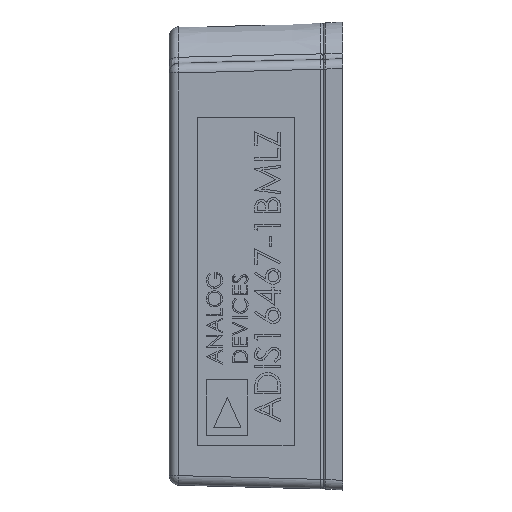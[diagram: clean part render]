
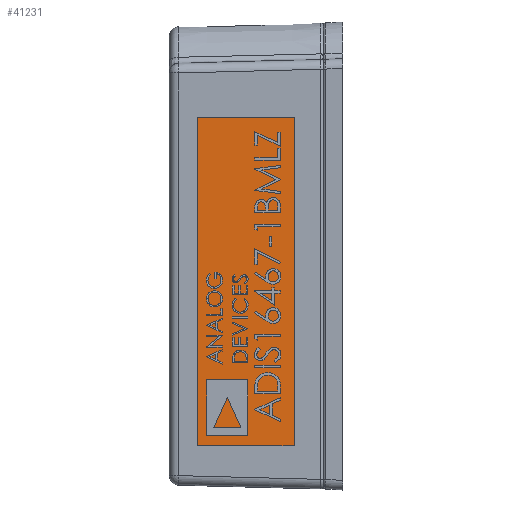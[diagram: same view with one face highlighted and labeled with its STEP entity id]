
A CAD part, left-side view. The second image highlights one B-rep face of the part: STEP entity #41231.
In plain terms, the highlighted planar face has unit normal (-1, 0.026, 0) as drawn and (1, -0.026, 0) by its records, which use the part's own axes.
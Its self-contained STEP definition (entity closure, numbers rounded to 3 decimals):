
#2806 = DIRECTION ( 'NONE',  ( 1., -0.026, 0. ) ) ;
#8566 = VECTOR ( 'NONE', #69971, 1000. ) ;
#10109 = EDGE_CURVE ( 'NONE', #18189, #61502, #56567, .T. ) ;
#14396 = CARTESIAN_POINT ( 'NONE',  ( 11.033, -0.289, 0. ) ) ;
#15705 = CARTESIAN_POINT ( 'NONE',  ( 11.079, 1.459, -9.206 ) ) ;
#16509 = VECTOR ( 'NONE', #24992, 1000. ) ;
#16629 = CARTESIAN_POINT ( 'NONE',  ( 11.21, 6.477, -9.206 ) ) ;
#18189 = VERTEX_POINT ( 'NONE', #75931 ) ;
#21254 = DIRECTION ( 'NONE',  ( 0., 0., -1. ) ) ;
#22498 = VECTOR ( 'NONE', #21254, 1000. ) ;
#24992 = DIRECTION ( 'NONE',  ( 0.026, 1., 0. ) ) ;
#32056 = EDGE_LOOP ( 'NONE', ( #72715, #59095, #64268, #65299 ) ) ;
#34928 = EDGE_CURVE ( 'NONE', #62787, #18189, #54999, .T. ) ;
#38353 = CARTESIAN_POINT ( 'NONE',  ( 11.079, 1.459, 7.841 ) ) ;
#38503 = LINE ( 'NONE', #15705, #22498 ) ;
#38853 = PLANE ( 'NONE',  #73168 ) ;
#41231 = ADVANCED_FACE ( 'NONE', ( #53766 ), #38853, .T. ) ;
#43884 = VECTOR ( 'NONE', #67317, 1000. ) ;
#44820 = CARTESIAN_POINT ( 'NONE',  ( 11.21, 6.477, 7.841 ) ) ;
#52036 = EDGE_CURVE ( 'NONE', #61502, #75628, #73053, .T. ) ;
#53766 = FACE_OUTER_BOUND ( 'NONE', #32056, .T. ) ;
#54999 = LINE ( 'NONE', #60989, #16509 ) ;
#56567 = LINE ( 'NONE', #16629, #8566 ) ;
#59095 = ORIENTED_EDGE ( 'NONE', *, *, #10109, .T. ) ;
#60989 = CARTESIAN_POINT ( 'NONE',  ( 11.079, 1.459, -9.206 ) ) ;
#61502 = VERTEX_POINT ( 'NONE', #44820 ) ;
#62787 = VERTEX_POINT ( 'NONE', #68488 ) ;
#64268 = ORIENTED_EDGE ( 'NONE', *, *, #52036, .T. ) ;
#65299 = ORIENTED_EDGE ( 'NONE', *, *, #76808, .T. ) ;
#67317 = DIRECTION ( 'NONE',  ( -0.026, -1., 0. ) ) ;
#68488 = CARTESIAN_POINT ( 'NONE',  ( 11.079, 1.459, -9.206 ) ) ;
#69971 = DIRECTION ( 'NONE',  ( 0., 0., 1. ) ) ;
#72303 = CARTESIAN_POINT ( 'NONE',  ( 11.079, 1.459, 7.841 ) ) ;
#72715 = ORIENTED_EDGE ( 'NONE', *, *, #34928, .T. ) ;
#73053 = LINE ( 'NONE', #72303, #43884 ) ;
#73168 = AXIS2_PLACEMENT_3D ( 'NONE', #14396, #2806, #74877 ) ;
#74877 = DIRECTION ( 'NONE',  ( 0.026, 1., 0. ) ) ;
#75628 = VERTEX_POINT ( 'NONE', #38353 ) ;
#75931 = CARTESIAN_POINT ( 'NONE',  ( 11.21, 6.477, -9.206 ) ) ;
#76808 = EDGE_CURVE ( 'NONE', #75628, #62787, #38503, .T. ) ;
